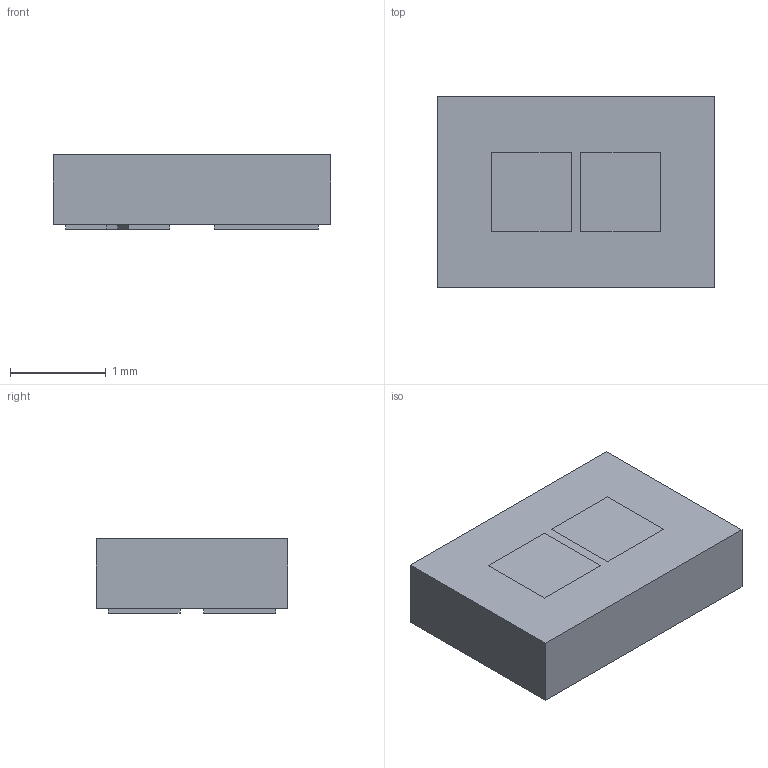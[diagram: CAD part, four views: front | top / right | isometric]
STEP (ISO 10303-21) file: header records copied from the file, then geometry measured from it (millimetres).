
FILE_DESCRIPTION (( 'STEP AP214' ), '1' );
FILE_NAME ('ACL2.STEP', '2025-03-23T09:04:24', ( '' ), ( '' ), 'SwSTEP 2.0', 'SolidWorks 2022', '' );
FILE_SCHEMA (( 'AUTOMOTIVE_DESIGN' ));
Length unit declared in the file: millimetre
Products named in the file (1): ACL2
Bounding box: 2.9 x 2 x 0.78 mm (x, y, z)
Volume: 4.4 mm3; surface area: 19.5 mm2
Topology: 1 solids, 1 shells, 34 faces, 86 edges, 60 vertices
Faces by surface type: plane 34
Entity records: 1356 total; most frequent: CARTESIAN_POINT 181, ORIENTED_EDGE 172, DIRECTION 156, EDGE_CURVE 86, LINE 86, VECTOR 86, VERTEX_POINT 60, EDGE_LOOP 40
